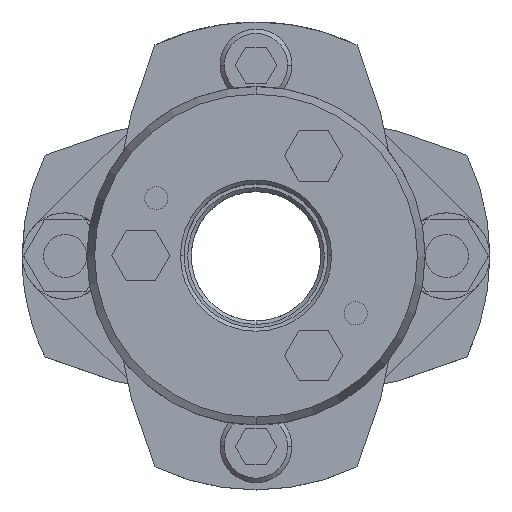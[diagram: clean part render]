
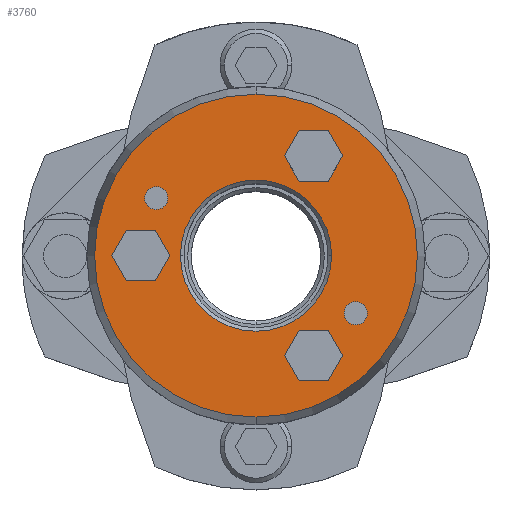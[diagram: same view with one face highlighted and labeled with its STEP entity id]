
A CAD part, top view. The second image highlights one B-rep face of the part: STEP entity #3760.
In plain terms, the highlighted planar face has unit normal (0, 0, 1).
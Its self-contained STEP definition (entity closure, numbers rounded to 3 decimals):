
#1462=CARTESIAN_POINT('',(0.,-22.428,30.75));
#1463=VERTEX_POINT('',#1462);
#1472=CARTESIAN_POINT('',(0.0,22.428,30.75));
#1473=VERTEX_POINT('',#1472);
#1474=CARTESIAN_POINT('',(0.0,0.,30.75));
#1475=DIRECTION('',(0.0,0.0,-1.0));
#1476=DIRECTION('',(0.0,-1.0,0.0));
#1477=AXIS2_PLACEMENT_3D('',#1474,#1475,#1476);
#1478=CIRCLE('',#1477,22.428);
#1479=EDGE_CURVE('',#1463,#1473,#1478,.T.);
#1506=CARTESIAN_POINT('',(-10.5,0.,30.75));
#1507=VERTEX_POINT('',#1506);
#1523=CARTESIAN_POINT('',(10.5,0.,30.75));
#1524=VERTEX_POINT('',#1523);
#1531=CARTESIAN_POINT('',(0.,0.,30.75));
#1532=DIRECTION('',(0.0,0.0,1.0));
#1533=DIRECTION('',(-1.0,0.0,0.0));
#1534=AXIS2_PLACEMENT_3D('',#1531,#1532,#1533);
#1535=CIRCLE('',#1534,10.5);
#1536=EDGE_CURVE('',#1524,#1507,#1535,.T.);
#1944=CARTESIAN_POINT('',(-15.456,8.,30.75));
#1945=VERTEX_POINT('',#1944);
#1961=CARTESIAN_POINT('',(-12.256,8.,30.75));
#1962=VERTEX_POINT('',#1961);
#1969=CARTESIAN_POINT('',(-13.856,8.,30.75));
#1970=DIRECTION('',(0.0,0.0,-1.0));
#1971=DIRECTION('',(-1.0,0.0,0.0));
#1972=AXIS2_PLACEMENT_3D('',#1969,#1970,#1971);
#1973=CIRCLE('',#1972,1.6);
#1974=EDGE_CURVE('',#1945,#1962,#1973,.T.);
#1986=CARTESIAN_POINT('',(12.256,-8.,30.75));
#1987=VERTEX_POINT('',#1986);
#2003=CARTESIAN_POINT('',(15.456,-8.,30.75));
#2004=VERTEX_POINT('',#2003);
#2011=CARTESIAN_POINT('',(13.856,-8.,30.75));
#2012=DIRECTION('',(0.0,0.0,-1.0));
#2013=DIRECTION('',(-1.0,0.0,0.0));
#2014=AXIS2_PLACEMENT_3D('',#2011,#2012,#2013);
#2015=CIRCLE('',#2014,1.6);
#2016=EDGE_CURVE('',#1987,#2004,#2015,.T.);
#2122=CARTESIAN_POINT('',(-20.041,0.,30.75));
#2123=VERTEX_POINT('',#2122);
#2130=CARTESIAN_POINT('',(-18.021,-3.5,30.75));
#2131=VERTEX_POINT('',#2130);
#2132=CARTESIAN_POINT('',(-18.021,-3.5,30.75));
#2133=DIRECTION('',(-0.5,0.866,0.0));
#2134=VECTOR('',#2133,4.041);
#2135=LINE('',#2132,#2134);
#2136=EDGE_CURVE('',#2131,#2123,#2135,.T.);
#2160=CARTESIAN_POINT('',(-18.021,3.5,30.75));
#2161=VERTEX_POINT('',#2160);
#2168=CARTESIAN_POINT('',(-20.041,0.,30.75));
#2169=DIRECTION('',(0.5,0.866,0.0));
#2170=VECTOR('',#2169,4.041);
#2171=LINE('',#2168,#2170);
#2172=EDGE_CURVE('',#2123,#2161,#2171,.T.);
#2191=CARTESIAN_POINT('',(-13.979,3.5,30.75));
#2192=VERTEX_POINT('',#2191);
#2199=CARTESIAN_POINT('',(-18.021,3.5,30.75));
#2200=DIRECTION('',(1.0,0.0,0.0));
#2201=VECTOR('',#2200,4.041);
#2202=LINE('',#2199,#2201);
#2203=EDGE_CURVE('',#2161,#2192,#2202,.T.);
#2222=CARTESIAN_POINT('',(-11.959,0.,30.75));
#2223=VERTEX_POINT('',#2222);
#2230=CARTESIAN_POINT('',(-13.979,3.5,30.75));
#2231=DIRECTION('',(0.5,-0.866,0.0));
#2232=VECTOR('',#2231,4.041);
#2233=LINE('',#2230,#2232);
#2234=EDGE_CURVE('',#2192,#2223,#2233,.T.);
#2253=CARTESIAN_POINT('',(-13.979,-3.5,30.75));
#2254=VERTEX_POINT('',#2253);
#2261=CARTESIAN_POINT('',(-11.959,0.,30.75));
#2262=DIRECTION('',(-0.5,-0.866,0.0));
#2263=VECTOR('',#2262,4.041);
#2264=LINE('',#2261,#2263);
#2265=EDGE_CURVE('',#2223,#2254,#2264,.T.);
#2283=CARTESIAN_POINT('',(-13.979,-3.5,30.75));
#2284=DIRECTION('',(-1.0,0.0,0.0));
#2285=VECTOR('',#2284,4.041);
#2286=LINE('',#2283,#2285);
#2287=EDGE_CURVE('',#2254,#2131,#2286,.T.);
#2322=CARTESIAN_POINT('',(3.959,13.856,30.75));
#2323=VERTEX_POINT('',#2322);
#2330=CARTESIAN_POINT('',(5.979,10.356,30.75));
#2331=VERTEX_POINT('',#2330);
#2332=CARTESIAN_POINT('',(5.979,10.356,30.75));
#2333=DIRECTION('',(-0.5,0.866,0.0));
#2334=VECTOR('',#2333,4.041);
#2335=LINE('',#2332,#2334);
#2336=EDGE_CURVE('',#2331,#2323,#2335,.T.);
#2360=CARTESIAN_POINT('',(5.979,17.356,30.75));
#2361=VERTEX_POINT('',#2360);
#2368=CARTESIAN_POINT('',(3.959,13.856,30.75));
#2369=DIRECTION('',(0.5,0.866,0.0));
#2370=VECTOR('',#2369,4.041);
#2371=LINE('',#2368,#2370);
#2372=EDGE_CURVE('',#2323,#2361,#2371,.T.);
#2391=CARTESIAN_POINT('',(10.021,17.356,30.75));
#2392=VERTEX_POINT('',#2391);
#2399=CARTESIAN_POINT('',(5.979,17.356,30.75));
#2400=DIRECTION('',(1.0,0.0,0.0));
#2401=VECTOR('',#2400,4.041);
#2402=LINE('',#2399,#2401);
#2403=EDGE_CURVE('',#2361,#2392,#2402,.T.);
#2422=CARTESIAN_POINT('',(12.041,13.856,30.75));
#2423=VERTEX_POINT('',#2422);
#2430=CARTESIAN_POINT('',(10.021,17.356,30.75));
#2431=DIRECTION('',(0.5,-0.866,0.0));
#2432=VECTOR('',#2431,4.041);
#2433=LINE('',#2430,#2432);
#2434=EDGE_CURVE('',#2392,#2423,#2433,.T.);
#2453=CARTESIAN_POINT('',(10.021,10.356,30.75));
#2454=VERTEX_POINT('',#2453);
#2461=CARTESIAN_POINT('',(12.041,13.856,30.75));
#2462=DIRECTION('',(-0.5,-0.866,0.0));
#2463=VECTOR('',#2462,4.041);
#2464=LINE('',#2461,#2463);
#2465=EDGE_CURVE('',#2423,#2454,#2464,.T.);
#2483=CARTESIAN_POINT('',(10.021,10.356,30.75));
#2484=DIRECTION('',(-1.0,0.0,0.0));
#2485=VECTOR('',#2484,4.041);
#2486=LINE('',#2483,#2485);
#2487=EDGE_CURVE('',#2454,#2331,#2486,.T.);
#2522=CARTESIAN_POINT('',(3.959,-13.856,30.75));
#2523=VERTEX_POINT('',#2522);
#2530=CARTESIAN_POINT('',(5.979,-17.356,30.75));
#2531=VERTEX_POINT('',#2530);
#2532=CARTESIAN_POINT('',(5.979,-17.356,30.75));
#2533=DIRECTION('',(-0.5,0.866,0.0));
#2534=VECTOR('',#2533,4.041);
#2535=LINE('',#2532,#2534);
#2536=EDGE_CURVE('',#2531,#2523,#2535,.T.);
#2560=CARTESIAN_POINT('',(5.979,-10.356,30.75));
#2561=VERTEX_POINT('',#2560);
#2568=CARTESIAN_POINT('',(3.959,-13.856,30.75));
#2569=DIRECTION('',(0.5,0.866,0.0));
#2570=VECTOR('',#2569,4.041);
#2571=LINE('',#2568,#2570);
#2572=EDGE_CURVE('',#2523,#2561,#2571,.T.);
#2591=CARTESIAN_POINT('',(10.021,-10.356,30.75));
#2592=VERTEX_POINT('',#2591);
#2599=CARTESIAN_POINT('',(5.979,-10.356,30.75));
#2600=DIRECTION('',(1.0,0.0,0.0));
#2601=VECTOR('',#2600,4.041);
#2602=LINE('',#2599,#2601);
#2603=EDGE_CURVE('',#2561,#2592,#2602,.T.);
#2622=CARTESIAN_POINT('',(12.041,-13.856,30.75));
#2623=VERTEX_POINT('',#2622);
#2630=CARTESIAN_POINT('',(10.021,-10.356,30.75));
#2631=DIRECTION('',(0.5,-0.866,0.0));
#2632=VECTOR('',#2631,4.041);
#2633=LINE('',#2630,#2632);
#2634=EDGE_CURVE('',#2592,#2623,#2633,.T.);
#2653=CARTESIAN_POINT('',(10.021,-17.356,30.75));
#2654=VERTEX_POINT('',#2653);
#2661=CARTESIAN_POINT('',(12.041,-13.856,30.75));
#2662=DIRECTION('',(-0.5,-0.866,0.0));
#2663=VECTOR('',#2662,4.041);
#2664=LINE('',#2661,#2663);
#2665=EDGE_CURVE('',#2623,#2654,#2664,.T.);
#2683=CARTESIAN_POINT('',(10.021,-17.356,30.75));
#2684=DIRECTION('',(-1.0,0.0,0.0));
#2685=VECTOR('',#2684,4.041);
#2686=LINE('',#2683,#2685);
#2687=EDGE_CURVE('',#2654,#2531,#2686,.T.);
#2713=CARTESIAN_POINT('',(13.856,-8.,30.75));
#2714=DIRECTION('',(0.0,0.0,-1.0));
#2715=DIRECTION('',(-1.0,0.0,0.0));
#2716=AXIS2_PLACEMENT_3D('',#2713,#2714,#2715);
#2717=CIRCLE('',#2716,1.6);
#2718=EDGE_CURVE('',#2004,#1987,#2717,.T.);
#2747=CARTESIAN_POINT('',(-13.856,8.,30.75));
#2748=DIRECTION('',(0.0,0.0,-1.0));
#2749=DIRECTION('',(-1.0,0.0,0.0));
#2750=AXIS2_PLACEMENT_3D('',#2747,#2748,#2749);
#2751=CIRCLE('',#2750,1.6);
#2752=EDGE_CURVE('',#1962,#1945,#2751,.T.);
#3697=CARTESIAN_POINT('',(0.,0.,30.75));
#3698=DIRECTION('',(0.0,0.0,1.0));
#3699=DIRECTION('',(-1.0,0.0,0.0));
#3700=AXIS2_PLACEMENT_3D('',#3697,#3698,#3699);
#3701=CIRCLE('',#3700,10.5);
#3702=EDGE_CURVE('',#1507,#1524,#3701,.T.);
#3709=CARTESIAN_POINT('',(0.,-9.964,30.75));
#3710=DIRECTION('',(0.0,0.0,1.0));
#3711=DIRECTION('',(-1.0,0.0,0.0));
#3712=AXIS2_PLACEMENT_3D('',#3709,#3710,#3711);
#3713=PLANE('',#3712);
#3714=ORIENTED_EDGE('',*,*,#1479,.F.);
#3715=CARTESIAN_POINT('',(0.0,0.,30.75));
#3716=DIRECTION('',(0.0,0.0,-1.0));
#3717=DIRECTION('',(0.0,-1.0,0.0));
#3718=AXIS2_PLACEMENT_3D('',#3715,#3716,#3717);
#3719=CIRCLE('',#3718,22.428);
#3720=EDGE_CURVE('',#1473,#1463,#3719,.T.);
#3721=ORIENTED_EDGE('',*,*,#3720,.F.);
#3722=EDGE_LOOP('',(#3714,#3721));
#3723=FACE_OUTER_BOUND('',#3722,.T.);
#3724=ORIENTED_EDGE('',*,*,#2136,.T.);
#3725=ORIENTED_EDGE('',*,*,#2172,.T.);
#3726=ORIENTED_EDGE('',*,*,#2203,.T.);
#3727=ORIENTED_EDGE('',*,*,#2234,.T.);
#3728=ORIENTED_EDGE('',*,*,#2265,.T.);
#3729=ORIENTED_EDGE('',*,*,#2287,.T.);
#3730=EDGE_LOOP('',(#3724,#3725,#3726,#3727,#3728,#3729));
#3731=FACE_BOUND('',#3730,.T.);
#3732=ORIENTED_EDGE('',*,*,#2336,.T.);
#3733=ORIENTED_EDGE('',*,*,#2372,.T.);
#3734=ORIENTED_EDGE('',*,*,#2403,.T.);
#3735=ORIENTED_EDGE('',*,*,#2434,.T.);
#3736=ORIENTED_EDGE('',*,*,#2465,.T.);
#3737=ORIENTED_EDGE('',*,*,#2487,.T.);
#3738=EDGE_LOOP('',(#3732,#3733,#3734,#3735,#3736,#3737));
#3739=FACE_BOUND('',#3738,.T.);
#3740=ORIENTED_EDGE('',*,*,#2536,.T.);
#3741=ORIENTED_EDGE('',*,*,#2572,.T.);
#3742=ORIENTED_EDGE('',*,*,#2603,.T.);
#3743=ORIENTED_EDGE('',*,*,#2634,.T.);
#3744=ORIENTED_EDGE('',*,*,#2665,.T.);
#3745=ORIENTED_EDGE('',*,*,#2687,.T.);
#3746=EDGE_LOOP('',(#3740,#3741,#3742,#3743,#3744,#3745));
#3747=FACE_BOUND('',#3746,.T.);
#3748=ORIENTED_EDGE('',*,*,#2016,.T.);
#3749=ORIENTED_EDGE('',*,*,#2718,.T.);
#3750=EDGE_LOOP('',(#3748,#3749));
#3751=FACE_BOUND('',#3750,.T.);
#3752=ORIENTED_EDGE('',*,*,#1974,.T.);
#3753=ORIENTED_EDGE('',*,*,#2752,.T.);
#3754=EDGE_LOOP('',(#3752,#3753));
#3755=FACE_BOUND('',#3754,.T.);
#3756=ORIENTED_EDGE('',*,*,#1536,.F.);
#3757=ORIENTED_EDGE('',*,*,#3702,.F.);
#3758=EDGE_LOOP('',(#3756,#3757));
#3759=FACE_BOUND('',#3758,.T.);
#3760=ADVANCED_FACE('',(#3723,#3731,#3739,#3747,#3751,#3755,#3759),#3713,.T.);
